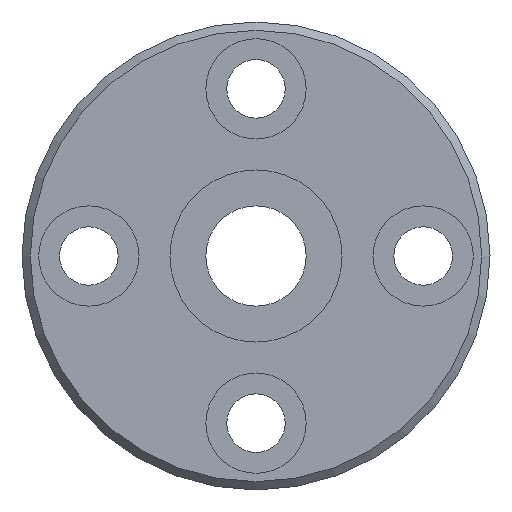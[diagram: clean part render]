
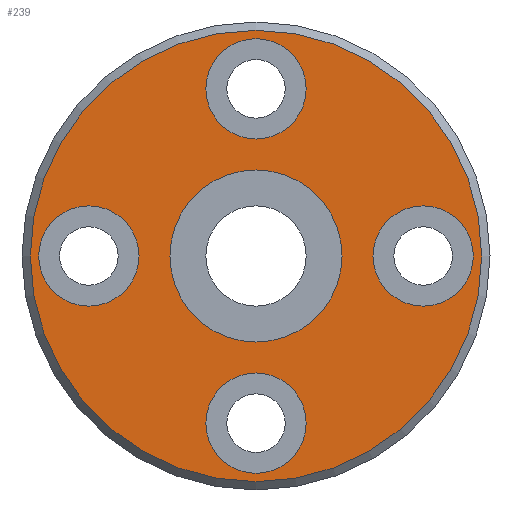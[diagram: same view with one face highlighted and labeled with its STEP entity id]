
A CAD part, left-side view. The second image highlights one B-rep face of the part: STEP entity #239.
In plain terms, the highlighted planar face has unit normal (-1, 0, 0).
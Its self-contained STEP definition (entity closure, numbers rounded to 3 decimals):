
#164=CARTESIAN_POINT('',(0.0,0.,13.5));
#165=VERTEX_POINT('',#164);
#166=CARTESIAN_POINT('',(0.0,0.0,0.0));
#167=DIRECTION('',(1.0,0.0,0.0));
#168=DIRECTION('',(0.0,0.0,-1.0));
#169=AXIS2_PLACEMENT_3D('',#166,#167,#168);
#170=CIRCLE('',#169,13.5);
#171=EDGE_CURVE('',#165,#165,#170,.T.);
#176=CARTESIAN_POINT('',(0.0,0.0,5.575));
#177=DIRECTION('',(-1.0,0.0,0.0));
#178=DIRECTION('',(0.0,0.0,1.0));
#179=AXIS2_PLACEMENT_3D('',#176,#177,#178);
#180=PLANE('',#179);
#181=ORIENTED_EDGE('',*,*,#171,.F.);
#182=EDGE_LOOP('',(#181));
#183=FACE_OUTER_BOUND('',#182,.T.);
#184=CARTESIAN_POINT('',(0.0,0.0,5.15));
#185=VERTEX_POINT('',#184);
#186=CARTESIAN_POINT('',(0.0,0.0,0.0));
#187=DIRECTION('',(-1.0,0.0,0.0));
#188=DIRECTION('',(0.0,0.0,1.0));
#189=AXIS2_PLACEMENT_3D('',#186,#187,#188);
#190=CIRCLE('',#189,5.15);
#191=EDGE_CURVE('',#185,#185,#190,.T.);
#192=ORIENTED_EDGE('',*,*,#191,.F.);
#193=EDGE_LOOP('',(#192));
#194=FACE_BOUND('',#193,.T.);
#195=CARTESIAN_POINT('',(0.0,13.0,0.0));
#196=VERTEX_POINT('',#195);
#197=CARTESIAN_POINT('',(0.0,10.0,0.0));
#198=DIRECTION('',(1.0,0.0,0.0));
#199=DIRECTION('',(0.0,1.0,0.0));
#200=AXIS2_PLACEMENT_3D('',#197,#198,#199);
#201=CIRCLE('',#200,3.);
#202=EDGE_CURVE('',#196,#196,#201,.T.);
#203=ORIENTED_EDGE('',*,*,#202,.T.);
#204=EDGE_LOOP('',(#203));
#205=FACE_BOUND('',#204,.T.);
#206=CARTESIAN_POINT('',(0.0,-7.,0.0));
#207=VERTEX_POINT('',#206);
#208=CARTESIAN_POINT('',(0.0,-10.0,0.0));
#209=DIRECTION('',(1.0,0.0,0.0));
#210=DIRECTION('',(0.0,1.0,0.0));
#211=AXIS2_PLACEMENT_3D('',#208,#209,#210);
#212=CIRCLE('',#211,3.);
#213=EDGE_CURVE('',#207,#207,#212,.T.);
#214=ORIENTED_EDGE('',*,*,#213,.T.);
#215=EDGE_LOOP('',(#214));
#216=FACE_BOUND('',#215,.T.);
#217=CARTESIAN_POINT('',(0.0,3.,10.0));
#218=VERTEX_POINT('',#217);
#219=CARTESIAN_POINT('',(0.0,0.0,10.0));
#220=DIRECTION('',(1.0,0.0,0.0));
#221=DIRECTION('',(0.0,1.0,0.0));
#222=AXIS2_PLACEMENT_3D('',#219,#220,#221);
#223=CIRCLE('',#222,3.);
#224=EDGE_CURVE('',#218,#218,#223,.T.);
#225=ORIENTED_EDGE('',*,*,#224,.T.);
#226=EDGE_LOOP('',(#225));
#227=FACE_BOUND('',#226,.T.);
#228=CARTESIAN_POINT('',(0.0,3.,-10.0));
#229=VERTEX_POINT('',#228);
#230=CARTESIAN_POINT('',(0.0,0.0,-10.0));
#231=DIRECTION('',(1.0,0.0,0.0));
#232=DIRECTION('',(0.0,1.0,0.0));
#233=AXIS2_PLACEMENT_3D('',#230,#231,#232);
#234=CIRCLE('',#233,3.);
#235=EDGE_CURVE('',#229,#229,#234,.T.);
#236=ORIENTED_EDGE('',*,*,#235,.T.);
#237=EDGE_LOOP('',(#236));
#238=FACE_BOUND('',#237,.T.);
#239=ADVANCED_FACE('',(#183,#194,#205,#216,#227,#238),#180,.T.);
